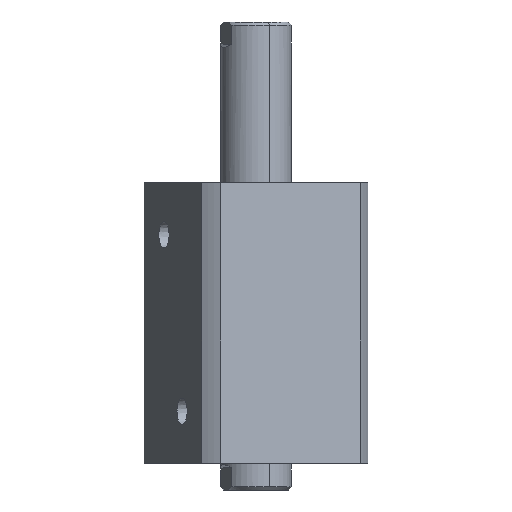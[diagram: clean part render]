
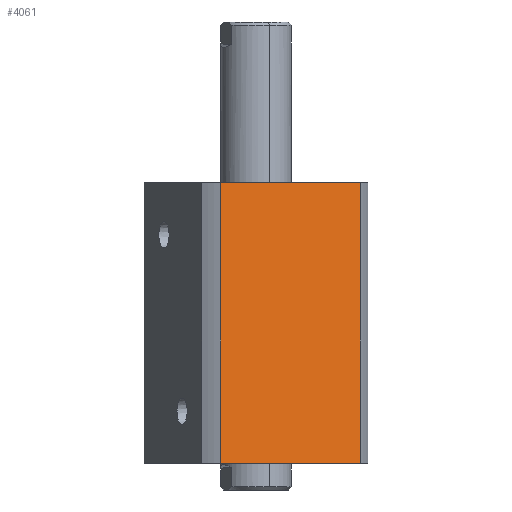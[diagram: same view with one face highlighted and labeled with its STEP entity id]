
A CAD part, front view. The second image highlights one B-rep face of the part: STEP entity #4061.
In plain terms, the highlighted planar face has unit normal (0.383, -0.924, 0) as drawn and (-1, 0, 0) by its records, which use the part's own axes.
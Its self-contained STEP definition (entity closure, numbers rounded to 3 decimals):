
#95 = CARTESIAN_POINT ( 'NONE',  ( -57., 57., 178. ) ) ;
#948 = VECTOR ( 'NONE', #14943, 1000. ) ;
#1264 = CARTESIAN_POINT ( 'NONE',  ( -57., -47.971, 0. ) ) ;
#3310 = DIRECTION ( 'NONE',  ( 0., 0., 1. ) ) ;
#3612 = VERTEX_POINT ( 'NONE', #5007 ) ;
#3659 = DIRECTION ( 'NONE',  ( 0., 1., 0. ) ) ;
#3789 = CARTESIAN_POINT ( 'NONE',  ( -57., 57., 178. ) ) ;
#3879 = CARTESIAN_POINT ( 'NONE',  ( -57., 57., 0. ) ) ;
#4061 = ADVANCED_FACE ( 'NONE', ( #10465 ), #9789, .F. ) ;
#4513 = LINE ( 'NONE', #9994, #948 ) ;
#4727 = EDGE_CURVE ( 'NONE', #3612, #12540, #4513, .T. ) ;
#5007 = CARTESIAN_POINT ( 'NONE',  ( -57., -47.971, 178. ) ) ;
#5628 = EDGE_CURVE ( 'NONE', #15029, #13087, #13805, .T. ) ;
#6043 = CARTESIAN_POINT ( 'NONE',  ( -57., 47.971, 178. ) ) ;
#6632 = EDGE_CURVE ( 'NONE', #13087, #3612, #9205, .T. ) ;
#6807 = VECTOR ( 'NONE', #13683, 1000. ) ;
#9205 = LINE ( 'NONE', #3789, #14933 ) ;
#9420 = CARTESIAN_POINT ( 'NONE',  ( -57., 47.971, -122. ) ) ;
#9789 = PLANE ( 'NONE',  #15158 ) ;
#9825 = ORIENTED_EDGE ( 'NONE', *, *, #6632, .F. ) ;
#9963 = DIRECTION ( 'NONE',  ( 0., -1., 0. ) ) ;
#9994 = CARTESIAN_POINT ( 'NONE',  ( -57., -47.971, -122. ) ) ;
#10083 = LINE ( 'NONE', #3879, #6807 ) ;
#10465 = FACE_OUTER_BOUND ( 'NONE', #11773, .T. ) ;
#11002 = DIRECTION ( 'NONE',  ( 1., 0., 0. ) ) ;
#11773 = EDGE_LOOP ( 'NONE', ( #14566, #14152, #14430, #9825 ) ) ;
#12540 = VERTEX_POINT ( 'NONE', #1264 ) ;
#12724 = EDGE_CURVE ( 'NONE', #15029, #12540, #10083, .T. ) ;
#13087 = VERTEX_POINT ( 'NONE', #6043 ) ;
#13422 = VECTOR ( 'NONE', #3310, 1000. ) ;
#13683 = DIRECTION ( 'NONE',  ( 0., -1., 0. ) ) ;
#13805 = LINE ( 'NONE', #9420, #13422 ) ;
#14152 = ORIENTED_EDGE ( 'NONE', *, *, #12724, .T. ) ;
#14430 = ORIENTED_EDGE ( 'NONE', *, *, #4727, .F. ) ;
#14566 = ORIENTED_EDGE ( 'NONE', *, *, #5628, .F. ) ;
#14933 = VECTOR ( 'NONE', #9963, 1000. ) ;
#14943 = DIRECTION ( 'NONE',  ( 0., 0., -1. ) ) ;
#15029 = VERTEX_POINT ( 'NONE', #15705 ) ;
#15158 = AXIS2_PLACEMENT_3D ( 'NONE', #95, #11002, #3659 ) ;
#15705 = CARTESIAN_POINT ( 'NONE',  ( -57., 47.971, 0. ) ) ;
